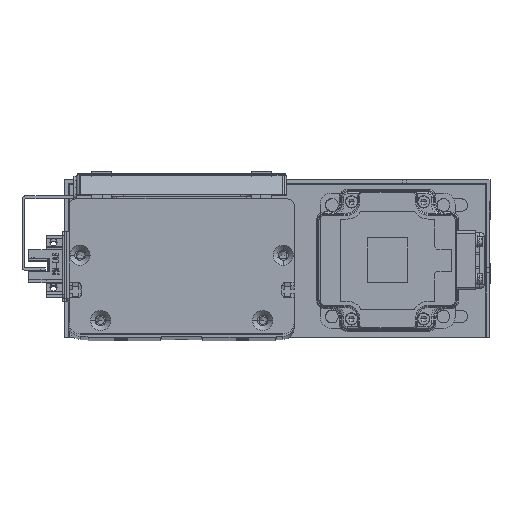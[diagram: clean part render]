
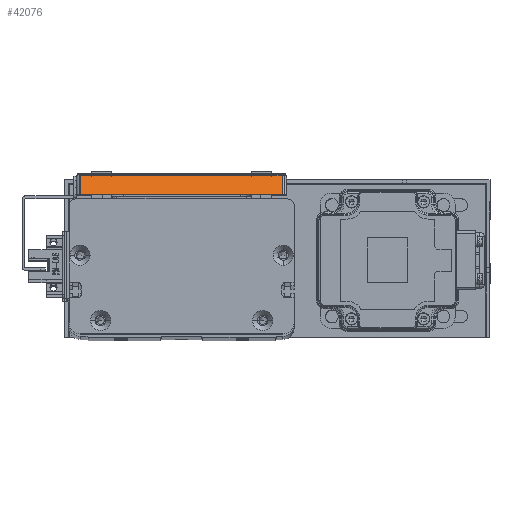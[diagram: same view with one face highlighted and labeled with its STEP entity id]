
A CAD part, top view. The second image highlights one B-rep face of the part: STEP entity #42076.
In plain terms, the highlighted planar face has unit normal (0, 0.707, 0.707) as drawn and (-0.707, 0, -0.707) by its records, which use the part's own axes.
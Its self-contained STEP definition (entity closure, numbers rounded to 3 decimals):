
#1019 = DIRECTION ( 'NONE',  ( 0.707, 0., -0.707 ) ) ;
#1254 = VERTEX_POINT ( 'NONE', #34467 ) ;
#5326 = ORIENTED_EDGE ( 'NONE', *, *, #25763, .T. ) ;
#7603 = VERTEX_POINT ( 'NONE', #31488 ) ;
#11387 = CARTESIAN_POINT ( 'NONE',  ( -68., 91.7, 5.6 ) ) ;
#11415 = EDGE_CURVE ( 'NONE', #58206, #7603, #22264, .T. ) ;
#12070 = AXIS2_PLACEMENT_3D ( 'NONE', #20241, #31321, #14830 ) ;
#13875 = EDGE_CURVE ( 'NONE', #7603, #1254, #55507, .T. ) ;
#14830 = DIRECTION ( 'NONE',  ( -0.707, 0., 0.707 ) ) ;
#15207 = DIRECTION ( 'NONE',  ( 0., 1., 0. ) ) ;
#15531 = FACE_OUTER_BOUND ( 'NONE', #44466, .T. ) ;
#19486 = ORIENTED_EDGE ( 'NONE', *, *, #13875, .T. ) ;
#20241 = CARTESIAN_POINT ( 'NONE',  ( -68., 93.4, 5.6 ) ) ;
#21828 = DIRECTION ( 'NONE',  ( -0.707, 0., 0.707 ) ) ;
#22264 = LINE ( 'NONE', #64125, #30625 ) ;
#22353 = VERTEX_POINT ( 'NONE', #38208 ) ;
#23985 = DIRECTION ( 'NONE',  ( 0., -1., 0. ) ) ;
#25455 = PLANE ( 'NONE',  #12070 ) ;
#25763 = EDGE_CURVE ( 'NONE', #1254, #22353, #63935, .T. ) ;
#25774 = ORIENTED_EDGE ( 'NONE', *, *, #11415, .T. ) ;
#27449 = CARTESIAN_POINT ( 'NONE',  ( -66.5, 1.7, 4.1 ) ) ;
#28131 = LINE ( 'NONE', #58523, #40733 ) ;
#30625 = VECTOR ( 'NONE', #15207, 1000. ) ;
#31321 = DIRECTION ( 'NONE',  ( -0.707, 0., -0.707 ) ) ;
#31488 = CARTESIAN_POINT ( 'NONE',  ( -66.5, 91.7, 4.1 ) ) ;
#34467 = CARTESIAN_POINT ( 'NONE',  ( -57.298, 91.7, -5.102 ) ) ;
#38208 = CARTESIAN_POINT ( 'NONE',  ( -57.298, 1.7, -5.102 ) ) ;
#38290 = EDGE_CURVE ( 'NONE', #22353, #58206, #28131, .T. ) ;
#40733 = VECTOR ( 'NONE', #21828, 1000. ) ;
#42076 = ADVANCED_FACE ( 'NONE', ( #15531 ), #25455, .T. ) ;
#43717 = VECTOR ( 'NONE', #1019, 1000. ) ;
#44466 = EDGE_LOOP ( 'NONE', ( #56249, #25774, #19486, #5326 ) ) ;
#49675 = VECTOR ( 'NONE', #23985, 1000. ) ;
#50553 = CARTESIAN_POINT ( 'NONE',  ( -57.298, 93.4, -5.102 ) ) ;
#55507 = LINE ( 'NONE', #11387, #43717 ) ;
#56249 = ORIENTED_EDGE ( 'NONE', *, *, #38290, .T. ) ;
#58206 = VERTEX_POINT ( 'NONE', #27449 ) ;
#58523 = CARTESIAN_POINT ( 'NONE',  ( -68., 1.7, 5.6 ) ) ;
#63935 = LINE ( 'NONE', #50553, #49675 ) ;
#64125 = CARTESIAN_POINT ( 'NONE',  ( -66.5, 93.4, 4.1 ) ) ;
